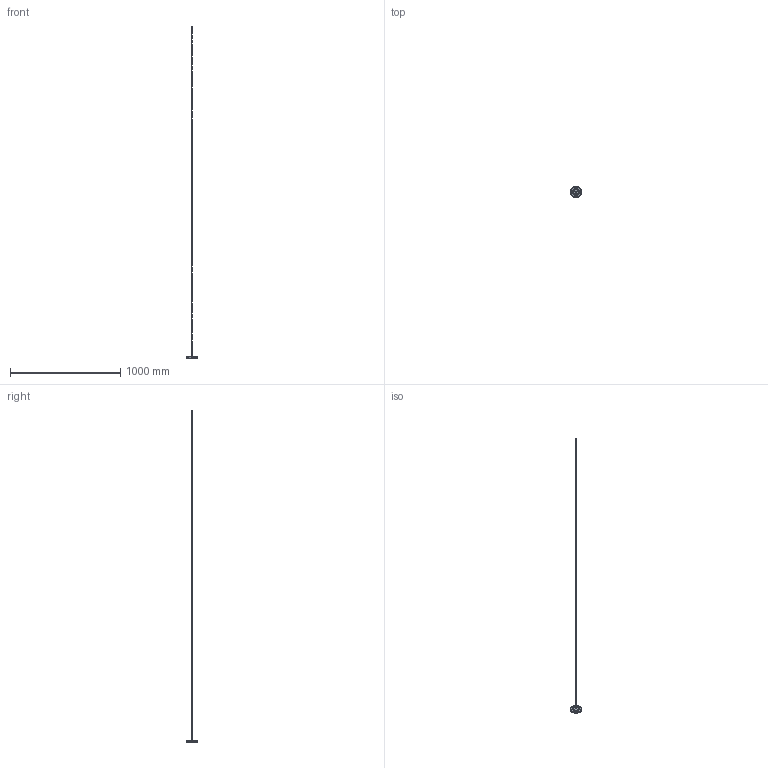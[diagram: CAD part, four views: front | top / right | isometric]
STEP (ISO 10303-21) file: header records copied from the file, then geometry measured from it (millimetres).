
FILE_DESCRIPTION(/* description */ (''),/* implementation_level */ '2;1');
FILE_NAME(/* name */ 'M053__~1',/* time_stamp */ '2024-07-04T14:24:24+02:00',/* author */ (''),/* organization */ (''),/* preprocessor_version */ 'ST-DEVELOPER v16.5',/* originating_system */ '',/* authorisation */ '');
FILE_SCHEMA (('AUTOMOTIVE_DESIGN'));
Length unit declared in the file: millimetre
Products named in the file (1): Document
Bounding box: 100.92 x 100.99 x 3011.3 mm (x, y, z)
Volume: 75375.3 mm3; surface area: 119548.3 mm2
Topology: 6 solids, 6 shells, 141 faces, 316 edges, 185 vertices
Faces by surface type: bspline 115, plane 26
Entity records: 7120 total; most frequent: CARTESIAN_POINT 5340, ORIENTED_EDGE 610, EDGE_CURVE 305, VERTEX_POINT 185, EDGE_LOOP 158, ADVANCED_FACE 141, FACE_OUTER_BOUND 141, B_SPLINE_CURVE_WITH_KNOTS 105
